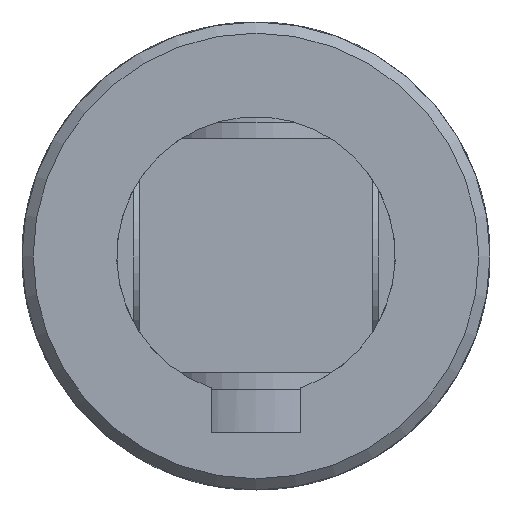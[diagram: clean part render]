
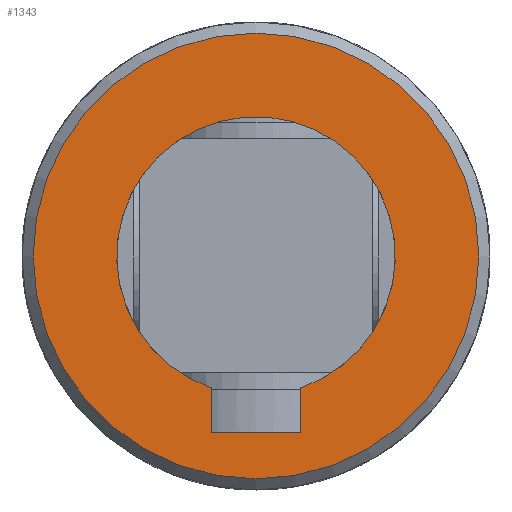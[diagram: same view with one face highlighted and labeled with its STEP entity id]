
A CAD part, front view. The second image highlights one B-rep face of the part: STEP entity #1343.
In plain terms, the highlighted planar face has unit normal (0, -1, 0).
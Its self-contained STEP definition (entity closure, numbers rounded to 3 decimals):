
#151=LINE('',#2451,#194);
#153=LINE('',#2467,#196);
#155=LINE('',#2471,#198);
#194=VECTOR('',#1758,3.957);
#196=VECTOR('',#1762,8.);
#198=VECTOR('',#1768,3.957);
#241=PLANE('',#1480);
#277=FACE_BOUND('',#451,.T.);
#340=FACE_OUTER_BOUND('',#450,.T.);
#450=EDGE_LOOP('',(#1125));
#451=EDGE_LOOP('',(#1126,#1127,#1128,#1129));
#525=CIRCLE('',#1470,12.5);
#529=CIRCLE('',#1478,20.);
#630=VERTEX_POINT('',#2419);
#631=VERTEX_POINT('',#2421);
#634=VERTEX_POINT('',#2450);
#636=VERTEX_POINT('',#2466);
#638=VERTEX_POINT('',#2475);
#792=EDGE_CURVE('',#631,#630,#525,.T.);
#797=EDGE_CURVE('',#634,#631,#151,.T.);
#800=EDGE_CURVE('',#636,#634,#153,.T.);
#803=EDGE_CURVE('',#630,#636,#155,.T.);
#805=EDGE_CURVE('',#638,#638,#529,.T.);
#1125=ORIENTED_EDGE('',*,*,#805,.F.);
#1126=ORIENTED_EDGE('',*,*,#792,.T.);
#1127=ORIENTED_EDGE('',*,*,#803,.T.);
#1128=ORIENTED_EDGE('',*,*,#800,.T.);
#1129=ORIENTED_EDGE('',*,*,#797,.T.);
#1343=ADVANCED_FACE('',(#340,#277),#241,.F.);
#1470=AXIS2_PLACEMENT_3D('',#2422,#1751,#1752);
#1478=AXIS2_PLACEMENT_3D('',#2476,#1773,#1774);
#1480=AXIS2_PLACEMENT_3D('',#2700,#1781,#1782);
#1751=DIRECTION('center_axis',(0.,1.,0.));
#1752=DIRECTION('ref_axis',(-0.32,0.,0.947));
#1758=DIRECTION('',(0.,0.,1.));
#1762=DIRECTION('',(-1.,0.,0.));
#1768=DIRECTION('',(0.,0.,-1.));
#1773=DIRECTION('center_axis',(0.,1.,0.));
#1774=DIRECTION('ref_axis',(1.,0.,0.));
#1781=DIRECTION('center_axis',(0.,1.,0.));
#1782=DIRECTION('ref_axis',(0.,0.,1.));
#2419=CARTESIAN_POINT('',(4.,-64.,-11.843));
#2421=CARTESIAN_POINT('',(-4.,-64.,-11.843));
#2422=CARTESIAN_POINT('Origin',(0.,-64.,0.));
#2450=CARTESIAN_POINT('',(-4.,-64.,-15.8));
#2451=CARTESIAN_POINT('',(-4.,-64.,-7.9));
#2466=CARTESIAN_POINT('',(4.,-64.,-15.8));
#2467=CARTESIAN_POINT('',(2.,-64.,-15.8));
#2471=CARTESIAN_POINT('',(4.,-64.,-5.921));
#2475=CARTESIAN_POINT('',(-20.,-64.,0.));
#2476=CARTESIAN_POINT('Origin',(0.,-64.,0.));
#2700=CARTESIAN_POINT('Origin',(0.,-64.,0.));
